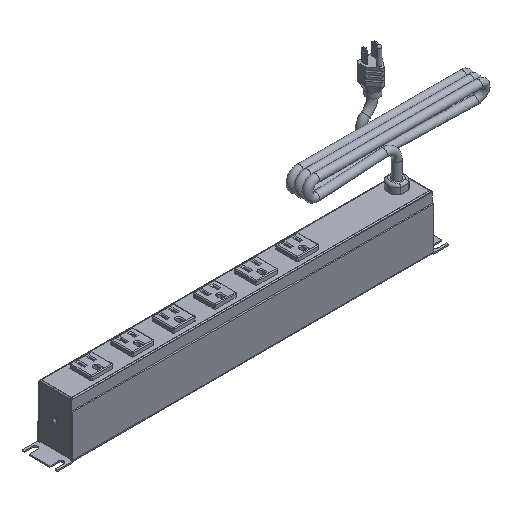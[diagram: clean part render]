
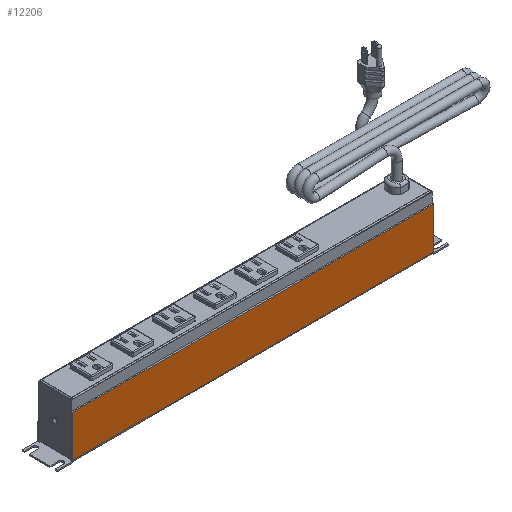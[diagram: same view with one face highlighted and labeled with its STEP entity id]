
A CAD part, isometric view. The second image highlights one B-rep face of the part: STEP entity #12206.
In plain terms, the highlighted planar face has unit normal (0, -1, 0).
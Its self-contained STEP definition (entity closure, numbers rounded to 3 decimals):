
#1323=FACE_OUTER_BOUND('',#1971,.T.);
#1971=EDGE_LOOP('',(#8383,#8384,#8385,#8386));
#2799=LINE('',#17403,#3976);
#2804=LINE('',#17416,#3981);
#2811=LINE('',#17432,#3988);
#2813=LINE('',#17435,#3990);
#3976=VECTOR('',#14252,10.);
#3981=VECTOR('',#14263,1.699);
#3988=VECTOR('',#14282,10.);
#3990=VECTOR('',#14286,10.);
#5119=VERTEX_POINT('',#17401);
#5120=VERTEX_POINT('',#17402);
#5125=VERTEX_POINT('',#17414);
#5128=VERTEX_POINT('',#17431);
#6415=EDGE_CURVE('',#5119,#5120,#2799,.T.);
#6422=EDGE_CURVE('',#5125,#5120,#2804,.T.);
#6431=EDGE_CURVE('',#5119,#5128,#2811,.T.);
#6433=EDGE_CURVE('',#5128,#5125,#2813,.T.);
#8383=ORIENTED_EDGE('',*,*,#6415,.T.);
#8384=ORIENTED_EDGE('',*,*,#6422,.F.);
#8385=ORIENTED_EDGE('',*,*,#6433,.F.);
#8386=ORIENTED_EDGE('',*,*,#6431,.F.);
#11786=PLANE('',#13061);
#12206=ADVANCED_FACE('',(#1323),#11786,.F.);
#13061=AXIS2_PLACEMENT_3D('',#17436,#14287,#14288);
#14252=DIRECTION('',(1.,0.,0.));
#14263=DIRECTION('',(0.,0.,-1.));
#14282=DIRECTION('',(0.,0.,1.));
#14286=DIRECTION('',(1.,0.,0.));
#14287=DIRECTION('center_axis',(0.,1.,0.));
#14288=DIRECTION('ref_axis',(1.,0.,0.));
#17401=CARTESIAN_POINT('',(-222.25,-21.819,2.588));
#17402=CARTESIAN_POINT('',(222.25,-21.819,2.588));
#17403=CARTESIAN_POINT('',(0.,-21.819,2.588));
#17414=CARTESIAN_POINT('',(222.25,-21.819,53.975));
#17416=CARTESIAN_POINT('',(222.25,-21.819,-2.748));
#17431=CARTESIAN_POINT('',(-222.25,-21.819,53.975));
#17432=CARTESIAN_POINT('',(-222.25,-21.819,2.588));
#17435=CARTESIAN_POINT('',(-222.25,-21.819,53.975));
#17436=CARTESIAN_POINT('Origin',(0.,-21.819,26.947));
